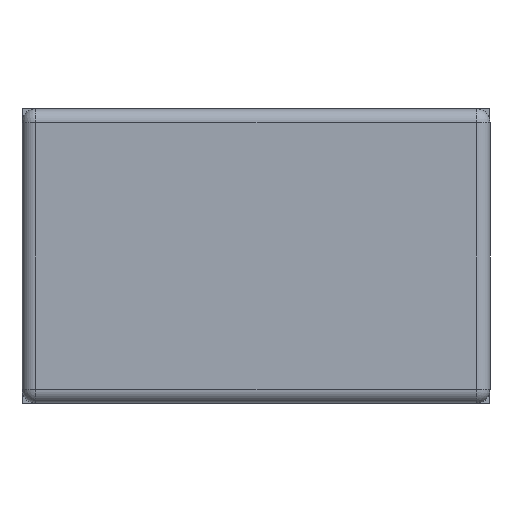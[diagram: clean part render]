
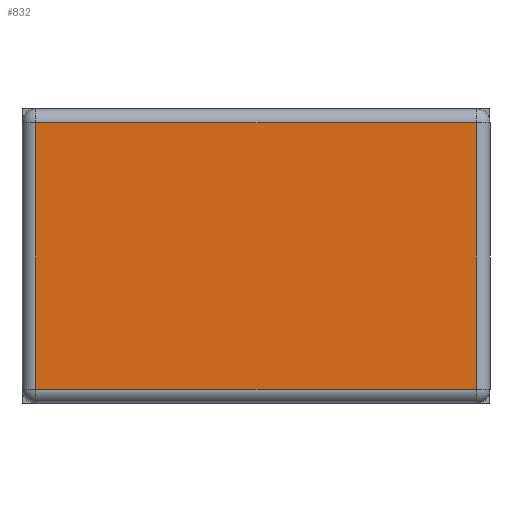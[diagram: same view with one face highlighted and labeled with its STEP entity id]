
A CAD part, left-side view. The second image highlights one B-rep face of the part: STEP entity #832.
In plain terms, the highlighted planar face has unit normal (-1, 0, 0).
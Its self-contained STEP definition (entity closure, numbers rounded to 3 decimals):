
#23=PLANE('',#938);
#60=LINE('',#1364,#120);
#65=LINE('',#1385,#125);
#67=LINE('',#1388,#127);
#73=LINE('',#1397,#133);
#120=VECTOR('',#1129,1.);
#125=VECTOR('',#1154,1.);
#127=VECTOR('',#1158,1.);
#133=VECTOR('',#1170,1.);
#223=FACE_OUTER_BOUND('',#279,.T.);
#279=EDGE_LOOP('',(#674,#675,#676,#677));
#366=VERTEX_POINT('',#1324);
#376=VERTEX_POINT('',#1350);
#378=VERTEX_POINT('',#1355);
#384=VERTEX_POINT('',#1375);
#464=EDGE_CURVE('',#366,#378,#60,.T.);
#475=EDGE_CURVE('',#378,#384,#65,.T.);
#477=EDGE_CURVE('',#384,#376,#67,.T.);
#483=EDGE_CURVE('',#376,#366,#73,.T.);
#674=ORIENTED_EDGE('',*,*,#464,.F.);
#675=ORIENTED_EDGE('',*,*,#483,.F.);
#676=ORIENTED_EDGE('',*,*,#477,.F.);
#677=ORIENTED_EDGE('',*,*,#475,.F.);
#832=ADVANCED_FACE('',(#223),#23,.F.);
#938=AXIS2_PLACEMENT_3D('',#1409,#1187,#1188);
#1129=DIRECTION('',(0.,0.,-1.));
#1154=DIRECTION('',(0.,1.,0.));
#1158=DIRECTION('',(0.,0.,1.));
#1170=DIRECTION('',(0.,-1.,0.));
#1187=DIRECTION('center_axis',(1.,0.,0.));
#1188=DIRECTION('ref_axis',(0.,0.,
-1.));
#1324=CARTESIAN_POINT('',(-1.05,-0.635,0.81));
#1350=CARTESIAN_POINT('',(-1.05,0.635,0.81));
#1355=CARTESIAN_POINT('',(-1.05,-0.635,0.04));
#1364=CARTESIAN_POINT('',(-1.05,-0.635,0.425));
#1375=CARTESIAN_POINT('',(-1.05,0.635,0.04));
#1385=CARTESIAN_POINT('',(-1.05,0.,0.04));
#1388=CARTESIAN_POINT('',(-1.05,0.635,0.425));
#1397=CARTESIAN_POINT('',(-1.05,0.,0.81));
#1409=CARTESIAN_POINT('Origin',(-1.05,0.,0.425));
